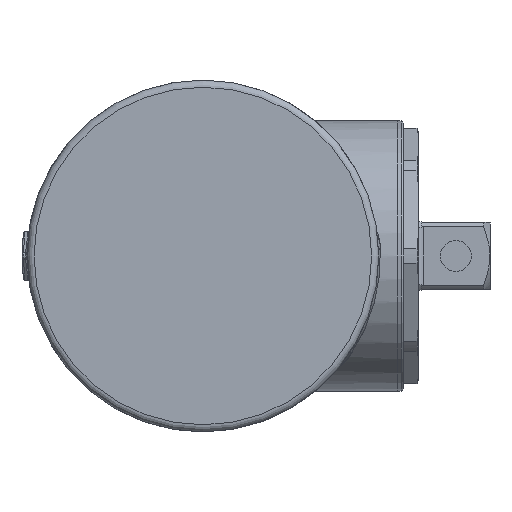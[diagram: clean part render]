
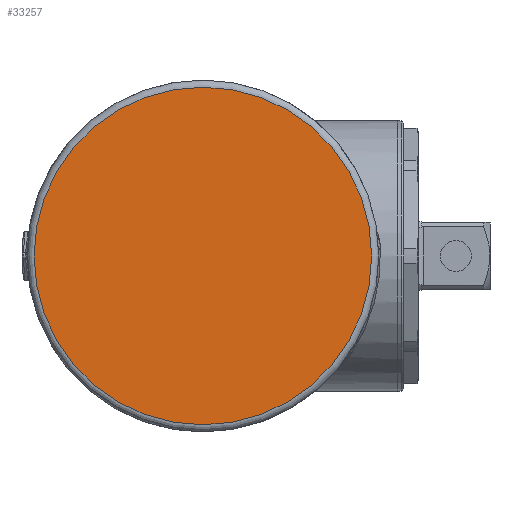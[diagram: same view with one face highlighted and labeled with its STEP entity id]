
A CAD part, left-side view. The second image highlights one B-rep face of the part: STEP entity #33257.
In plain terms, the highlighted planar face has unit normal (-1, 0, 0).
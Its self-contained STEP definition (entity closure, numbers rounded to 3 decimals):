
#1443 = CARTESIAN_POINT ( 'NONE',  ( -444.6, 0., 0. ) ) ;
#1578 = DIRECTION ( 'NONE',  ( 0., 0., 1. ) ) ;
#1943 = AXIS2_PLACEMENT_3D ( 'NONE', #42792, #22224, #1578 ) ;
#4865 = DIRECTION ( 'NONE',  ( 0., 0., 1. ) ) ;
#7024 = FACE_OUTER_BOUND ( 'NONE', #23303, .T. ) ;
#12872 = ORIENTED_EDGE ( 'NONE', *, *, #27872, .T. ) ;
#17035 = AXIS2_PLACEMENT_3D ( 'NONE', #1443, #25528, #4865 ) ;
#18649 = CIRCLE ( 'NONE', #17035, 23.75 ) ;
#21902 = VERTEX_POINT ( 'NONE', #34494 ) ;
#22224 = DIRECTION ( 'NONE',  ( -1., 0., 0. ) ) ;
#23303 = EDGE_LOOP ( 'NONE', ( #12872 ) ) ;
#25528 = DIRECTION ( 'NONE',  ( -1., 0., 0. ) ) ;
#27872 = EDGE_CURVE ( 'NONE', #21902, #21902, #18649, .T. ) ;
#33257 = ADVANCED_FACE ( 'NONE', ( #7024 ), #42643, .T. ) ;
#34494 = CARTESIAN_POINT ( 'NONE',  ( -444.6, 0., 23.75 ) ) ;
#42643 = PLANE ( 'NONE',  #1943 ) ;
#42792 = CARTESIAN_POINT ( 'NONE',  ( -444.6, 0., 0. ) ) ;
